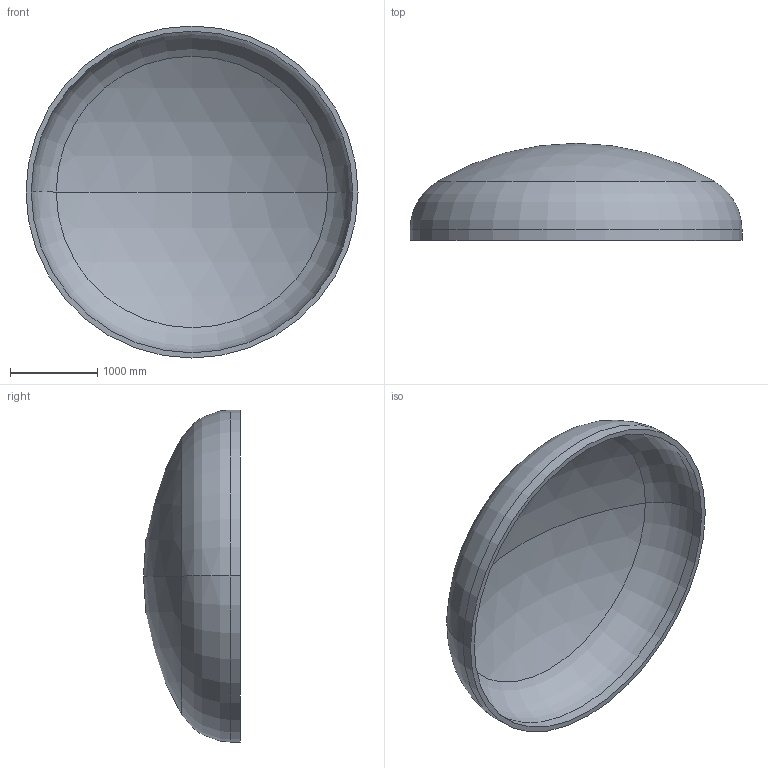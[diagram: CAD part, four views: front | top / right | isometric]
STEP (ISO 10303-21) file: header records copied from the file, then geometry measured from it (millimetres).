
FILE_DESCRIPTION (( 'STEP AP203' ), '1' );
FILE_NAME ('DIN 28013 Korbbogenform_-_Boden DIN 28013 - 3800 x 120 - I - s=60.step', '2016-07-01T21:33:19', ( '' ), ( '' ), 'SwSTEP 2.0', 'SolidWorks 2013', '' );
FILE_SCHEMA (( 'CONFIG_CONTROL_DESIGN' ));
Length unit declared in the file: millimetre
Products named in the file (1): DIN 28013 Korbbogenform_-_Boden DIN 28013 - 3800 x 120 - I - s=60
Bounding box: 3800 x 1110.02 x 3800 mm (x, y, z)
Volume: 1007534518.6 mm3; surface area: 34296985.2 mm2
Topology: 1 solids, 1 shells, 13 faces, 24 edges, 14 vertices
Faces by surface type: torus 4, cylinder 4, sphere 4, plane 1
Entity records: 407 total; most frequent: DIRECTION 72, CARTESIAN_POINT 52, ORIENTED_EDGE 48, AXIS2_PLACEMENT_3D 34, EDGE_CURVE 24, CIRCLE 20, VERTEX_POINT 14, EDGE_LOOP 14
